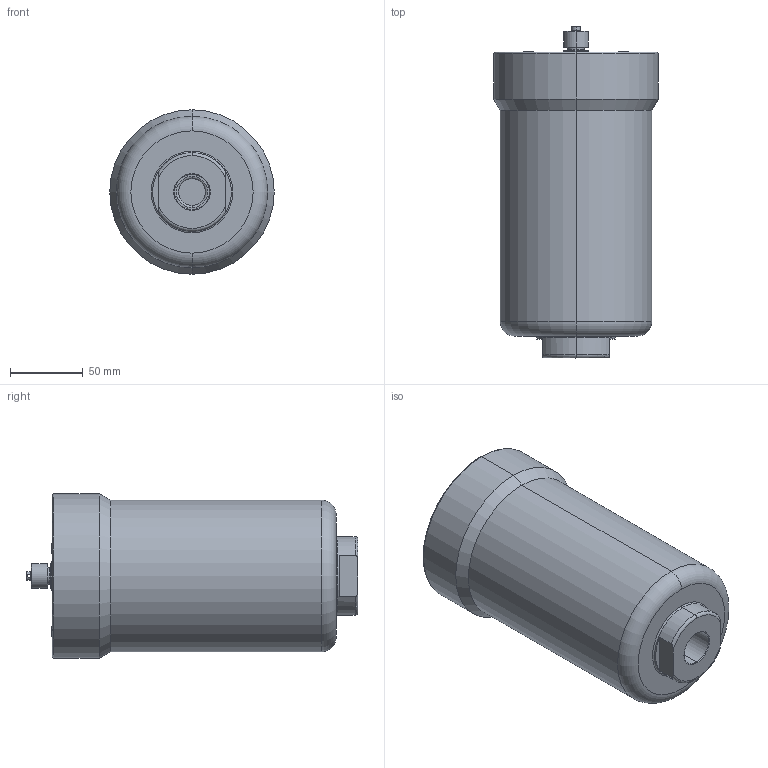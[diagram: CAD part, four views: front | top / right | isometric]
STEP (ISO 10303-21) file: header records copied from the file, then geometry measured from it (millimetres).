
FILE_DESCRIPTION (( 'STEP AP214' ), '1' );
FILE_NAME ('U010A04X1-AI.STEP', '2025-05-28T10:04:11', ( '' ), ( '' ), 'SwSTEP 2.0', 'SolidWorks 2024', '' );
FILE_SCHEMA (( 'AUTOMOTIVE_DESIGN' ));
Length unit declared in the file: millimetre
Products named in the file (1): U010A04X1-AI
Bounding box: 113 x 228.05 x 113 mm (x, y, z)
Volume: 1686590.1 mm3; surface area: 102761 mm2
Topology: 6 solids, 6 shells, 240 faces, 519 edges, 306 vertices
Faces by surface type: plane 90, cylinder 74, torus 41, cone 32, sphere 3
Entity records: 6749 total; most frequent: CARTESIAN_POINT 1321, DIRECTION 1239, ORIENTED_EDGE 1020, AXIS2_PLACEMENT_3D 512, EDGE_CURVE 510, VERTEX_POINT 306, EDGE_LOOP 276, CIRCLE 271
